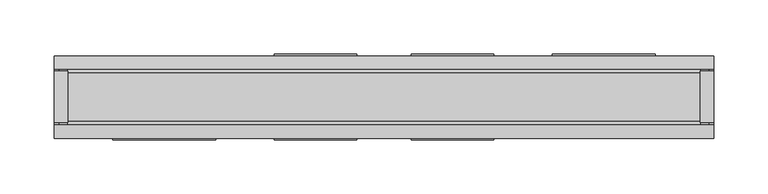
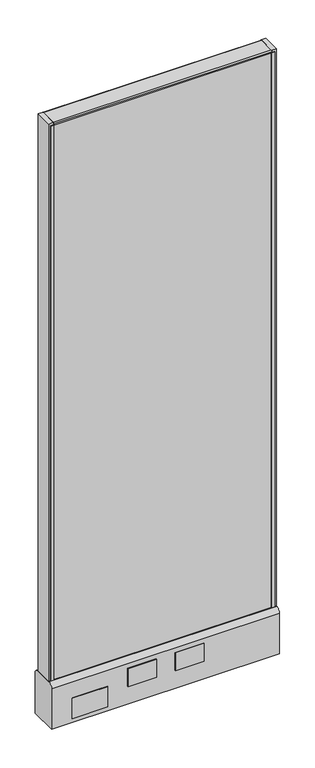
"""IFC4 building model written with IfcOpenShell, lengths in millimetres: furniture geometry."""

from ifc_helpers import new_model, si_unit, point, frame, frame_2d, origin, place, context, project, spatial, polyline, circle_curve, trimmed, segment, composite_curve, outline, extrude, source, transform, mapped, element, save
from ifc_brep_helpers import plane_surface, cylinder_surface, advanced_brep


def furniture_98713a82(model_context):
    return source(origin(), model_context, "Body", "SolidModel", [
        extrude(outline(polyline([(-101.6, 39.6875), (-25.4, 39.6875), (-25.4, 38.1), (-101.6, 38.1), (-101.6, 39.6875)])), frame((0.0, 0.0, 60.325), z_axis=(0.0, 0.0, 1.0), x_axis=(1.0, 0.0, 0.0)), (0.0, 0.0, 1.0), 50.8),
        extrude(outline(polyline([(25.4, 39.6875), (101.6, 39.6875), (101.6, 38.1), (25.4, 38.1), (25.4, 39.6875)])), frame((0.0, 0.0, 60.325), z_axis=(0.0, 0.0, 1.0), x_axis=(1.0, 0.0, 0.0)), (0.0, 0.0, 1.0), 50.8),
        extrude(outline(polyline([(-101.6, -38.1), (-25.4, -38.1), (-25.4, -39.6875), (-101.6, -39.6875), (-101.6, -38.1)])), frame((0.0, 0.0, 60.325), z_axis=(0.0, 0.0, 1.0), x_axis=(1.0, 0.0, 0.0)), (0.0, 0.0, 1.0), 50.8),
        extrude(outline(polyline([(25.4, -38.1), (101.6, -38.1), (101.6, -39.6875), (25.4, -39.6875), (25.4, -38.1)])), frame((0.0, 0.0, 60.325), z_axis=(0.0, 0.0, 1.0), x_axis=(1.0, 0.0, 0.0)), (0.0, 0.0, 1.0), 50.8),
        extrude(outline(polyline([(250.825, 38.1), (155.575, 38.1), (155.575, 39.6875), (250.825, 39.6875), (250.825, 38.1)])), frame((0.0, 0.0, 22.225), z_axis=(0.0, 0.0, 1.0), x_axis=(1.0, 0.0, 0.0)), (0.0, 0.0, 1.0), 57.15),
        extrude(outline(polyline([(-155.575, -39.6875), (-250.825, -39.6875), (-250.825, -38.1), (-155.575, -38.1), (-155.575, -39.6875)])), frame((0.0, 0.0, 22.225), z_axis=(0.0, 0.0, 1.0), x_axis=(1.0, 0.0, 0.0)), (0.0, 0.0, 1.0), 57.15),
        advanced_brep(
        [(247.65, 0.0, 0.0), (273.05, 0.0, 0.0), (260.35, 0.0, 0.0), (247.65, 0.0, 4.7625), (273.05, 0.0, 4.7625), (254.0, 0.0, 4.7625), (266.7, 0.0, 4.7625), (254.0, 0.0, 111.125), (266.7, 0.0, 111.125), (260.35, 0.0, 111.125)],
        [
            (0, 1, circle_curve(frame((260.35, 0.0, 0.0), z_axis=(0.0, 0.0, -1.0), x_axis=(1.0, 0.0, 0.0)), 12.7)),
            (1, 2),
            (2, 0),
            (1, 0, circle_curve(frame((260.35, 0.0, 0.0), z_axis=(0.0, 0.0, -1.0), x_axis=(1.0, 0.0, 0.0)), 12.7)),
            (3, 4, circle_curve(frame((260.35, 0.0, 4.7625), z_axis=(0.0, 0.0, -1.0), x_axis=(1.0, 0.0, 0.0)), 12.7)),
            (4, 1),
            (0, 3),
            (4, 3, circle_curve(frame((260.35, 0.0, 4.7625), z_axis=(0.0, 0.0, -1.0), x_axis=(1.0, 0.0, 0.0)), 12.7)),
            (5, 6, circle_curve(frame((260.35, 0.0, 4.7625), z_axis=(0.0, 0.0, -1.0), x_axis=(1.0, 0.0, 0.0)), 6.35)),
            (6, 4),
            (3, 5),
            (6, 5, circle_curve(frame((260.35, 0.0, 4.7625), z_axis=(0.0, 0.0, -1.0), x_axis=(1.0, 0.0, 0.0)), 6.35)),
            (7, 8, circle_curve(frame((260.35, 0.0, 111.125), z_axis=(0.0, 0.0, -1.0), x_axis=(1.0, 0.0, 0.0)), 6.35)),
            (8, 6),
            (5, 7),
            (8, 7, circle_curve(frame((260.35, 0.0, 111.125), z_axis=(0.0, 0.0, -1.0), x_axis=(1.0, 0.0, 0.0)), 6.35)),
            (9, 8),
            (7, 9),
        ],
        [
            plane_surface(frame((260.35, 0.0, 0.0), z_axis=(0.0, 0.0, -1.0), x_axis=(1.0, 0.0, 0.0))),
            cylinder_surface(frame((260.35, 0.0, 114.882153), z_axis=(0.0, 0.0, 1.0), x_axis=(1.0, 0.0, 0.0)), 12.7),
            plane_surface(frame((260.35, 0.0, 4.7625), z_axis=(0.0, 0.0, 1.0), x_axis=(1.0, 0.0, 0.0))),
            cylinder_surface(frame((260.35, 0.0, 114.882153), z_axis=(0.0, 0.0, 1.0), x_axis=(1.0, 0.0, 0.0)), 6.35),
            plane_surface(frame((260.35, 0.0, 111.125), z_axis=(0.0, 0.0, 1.0), x_axis=(1.0, 0.0, 0.0))),
        ],
        [
            (0, [[1, 2, 3]]),
            (0, [[4, -3, -2]]),
            (1, [[5, 6, -1, 7]]),
            (1, [[8, -7, -4, -6]]),
            (2, [[9, 10, -5, 11]]),
            (2, [[12, -11, -8, -10]]),
            (3, [[13, 14, -9, 15]]),
            (3, [[16, -15, -12, -14]]),
            (4, [[17, -13, 18]]),
            (4, [[-18, -16, -17]]),
        ],
    ),
        advanced_brep(
        [(-273.05, 0.0, 4.7625), (-247.65, 0.0, 4.7625), (-247.65, 0.0, 0.0), (-273.05, 0.0, 0.0), (-266.7, 0.0, 4.7625), (-254.0, 0.0, 4.7625), (-266.7, 0.0, 111.125), (-254.0, 0.0, 111.125), (-260.35, 0.0, 111.125), (-260.35, 0.0, 0.0)],
        [
            (0, 1, circle_curve(frame((-260.35, 0.0, 4.7625), z_axis=(0.0, 0.0, -1.0), x_axis=(1.0, 0.0, 0.0)), 12.7)),
            (1, 2),
            (2, 3, circle_curve(frame((-260.35, 0.0, 0.0), z_axis=(0.0, 0.0, 1.0), x_axis=(1.0, 0.0, 0.0)), 12.7)),
            (3, 0),
            (1, 0, circle_curve(frame((-260.35, 0.0, 4.7625), z_axis=(0.0, 0.0, -1.0), x_axis=(1.0, 0.0, 0.0)), 12.7)),
            (3, 2, circle_curve(frame((-260.35, 0.0, 0.0), z_axis=(0.0, 0.0, 1.0), x_axis=(1.0, 0.0, 0.0)), 12.7)),
            (4, 5, circle_curve(frame((-260.35, 0.0, 4.7625), z_axis=(0.0, 0.0, -1.0), x_axis=(1.0, 0.0, 0.0)), 6.35)),
            (5, 1),
            (0, 4),
            (5, 4, circle_curve(frame((-260.35, 0.0, 4.7625), z_axis=(0.0, 0.0, -1.0), x_axis=(1.0, 0.0, 0.0)), 6.35)),
            (6, 7, circle_curve(frame((-260.35, 0.0, 111.125), z_axis=(0.0, 0.0, -1.0), x_axis=(1.0, 0.0, 0.0)), 6.35)),
            (7, 5),
            (4, 6),
            (7, 6, circle_curve(frame((-260.35, 0.0, 111.125), z_axis=(0.0, 0.0, -1.0), x_axis=(1.0, 0.0, 0.0)), 6.35)),
            (8, 7),
            (6, 8),
            (2, 9),
            (9, 3),
        ],
        [
            cylinder_surface(frame((-260.35, 0.0, 123.825), z_axis=(0.0, 0.0, 1.0), x_axis=(1.0, 0.0, 0.0)), 12.7),
            plane_surface(frame((-260.35, 0.0, 4.7625), z_axis=(0.0, 0.0, 1.0), x_axis=(1.0, 0.0, 0.0))),
            cylinder_surface(frame((-260.35, 0.0, 123.825), z_axis=(0.0, 0.0, 1.0), x_axis=(1.0, 0.0, 0.0)), 6.35),
            plane_surface(frame((-260.35, 0.0, 111.125), z_axis=(0.0, 0.0, 1.0), x_axis=(1.0, 0.0, 0.0))),
            plane_surface(frame((-260.35, 0.0, 0.0), z_axis=(0.0, 0.0, -1.0), x_axis=(1.0, 0.0, 0.0))),
        ],
        [
            (0, [[1, 2, 3, 4]]),
            (0, [[5, -4, 6, -2]]),
            (1, [[7, 8, -1, 9]]),
            (1, [[10, -9, -5, -8]]),
            (2, [[11, 12, -7, 13]]),
            (2, [[14, -13, -10, -12]]),
            (3, [[15, -11, 16]]),
            (3, [[-16, -14, -15]]),
            (4, [[-3, 17, 18]]),
            (4, [[-6, -18, -17]]),
        ],
    ),
        extrude(outline(polyline([(-304.8, 23.8125), (-292.1, 23.8125), (-292.1, -23.8125), (-304.8, -23.8125), (-304.8, 23.8125)])), frame((0.0, 0.0, 136.525), z_axis=(0.0, 0.0, 1.0), x_axis=(1.0, 0.0, 0.0)), (0.0, 0.0, 1.0), 1574.8),
        extrude(outline(polyline([(292.1, -23.8125), (292.1, 23.8125), (304.8, 23.8125), (304.8, -23.8125), (292.1, -23.8125)])), frame((0.0, 0.0, 136.525), z_axis=(0.0, 0.0, 1.0), x_axis=(1.0, 0.0, 0.0)), (0.0, 0.0, 1.0), 1574.8),
        extrude(outline(polyline([(-292.1, 25.4), (-292.1, 23.8125), (-300.0375, 23.8125), (-300.0375, 25.4), (-292.1, 25.4)])), frame((0.0, 0.0, 136.525), z_axis=(0.0, 0.0, 1.0), x_axis=(1.0, 0.0, 0.0)), (0.0, 0.0, 1.0), 1568.45),
        extrude(outline(polyline([(-292.1, -25.4), (-300.0375, -25.4), (-300.0375, -23.8125), (-292.1, -23.8125), (-292.1, -25.4)])), frame((0.0, 0.0, 136.525), z_axis=(0.0, 0.0, 1.0), x_axis=(1.0, 0.0, 0.0)), (0.0, 0.0, 1.0), 1568.45),
        extrude(outline(polyline([(300.0375, 23.8125), (292.1, 23.8125), (292.1, 25.4), (300.0375, 25.4), (300.0375, 23.8125)])), frame((0.0, 0.0, 136.525), z_axis=(0.0, 0.0, 1.0), x_axis=(1.0, 0.0, 0.0)), (0.0, 0.0, 1.0), 1568.45),
        extrude(outline(polyline([(292.1, -25.4), (292.1, -23.8125), (300.0375, -23.8125), (300.0375, -25.4), (292.1, -25.4)])), frame((0.0, 0.0, 136.525), z_axis=(0.0, 0.0, 1.0), x_axis=(1.0, 0.0, 0.0)), (0.0, 0.0, 1.0), 1568.45),
        extrude(outline(composite_curve([segment(trimmed(circle_curve(frame_2d((22.225, 1708.15)), 3.175), [point((22.225, 1711.325))], [point((25.4, 1708.15))], False, "CARTESIAN"), True, "CONTINUOUS"), segment(polyline([(25.4, 1708.15), (25.4, 1704.975), (-25.4, 1704.975), (-25.4, 1708.15)]), True, "CONTINUOUS"), segment(trimmed(circle_curve(frame_2d((-22.225, 1708.15)), 3.175), [point((-25.4, 1708.15))], [point((-22.225, 1711.325))], False, "CARTESIAN"), True, "CONTINUOUS"), segment(polyline([(-22.225, 1711.325), (22.225, 1711.325)]), True, "CONTINUOUS")], self_intersect=False)), frame((-292.1, 0.0, 0.0), z_axis=(1.0, 0.0, 0.0), x_axis=(0.0, 1.0, 0.0)), (0.0, 0.0, 1.0), 584.2),
        extrude(outline(composite_curve([segment(trimmed(circle_curve(frame_2d((25.4, 123.825)), 12.7), [point((25.4, 136.525))], [point((38.1, 123.825))], False, "CARTESIAN"), True, "CONTINUOUS"), segment(polyline([(38.1, 123.825), (38.1, 9.525), (-38.1, 9.525), (-38.1, 123.825)]), True, "CONTINUOUS"), segment(trimmed(circle_curve(frame_2d((-25.4, 123.825)), 12.7), [point((-38.1, 123.825))], [point((-25.4, 136.525))], False, "CARTESIAN"), True, "CONTINUOUS"), segment(polyline([(-25.4, 136.525), (25.4, 136.525)]), True, "CONTINUOUS")], self_intersect=False)), frame((-304.8, 0.0, 0.0), z_axis=(1.0, 0.0, 0.0), x_axis=(0.0, 1.0, 0.0)), (0.0, 0.0, 1.0), 609.6),
        extrude(outline(polyline([(292.1, 23.8125), (292.1, -23.8125), (-292.1, -23.8125), (-292.1, 23.8125), (292.1, 23.8125)])), frame((0.0, 0.0, 136.525), z_axis=(0.0, 0.0, 1.0), x_axis=(1.0, 0.0, 0.0)), (0.0, 0.0, 1.0), 1568.45),
    ])


if __name__ == "__main__":
    model = new_model("IFC4")
    model_context = context("Model", 3, world=origin())
    ifc_project = project(units=[si_unit("LENGTHUNIT", "METRE", prefix="MILLI")], contexts=[model_context])
    site = spatial("IfcSite", under=ifc_project)
    building = spatial("IfcBuilding", under=site)
    placement = place(None, origin())
    furniture_shape = furniture_98713a82(model_context)
    element("IfcFurniture", 1, ObjectType="HermanMiller_ActionOffice_A1110_Hard-SurfacedPanelStandardBase : 67\"H x 24\"W-G", at=placement, inside=building, context=model_context, shape_type="MappedRepresentation", body=[
        mapped(furniture_shape, transform((0.0, 0.0, 0.0), x_axis=(1.0, 0.0, 0.0), y_axis=(0.0, 1.0, 0.0), z_axis=(0.0, 0.0, 1.0))),
    ])
    save(model, "model.ifc")
